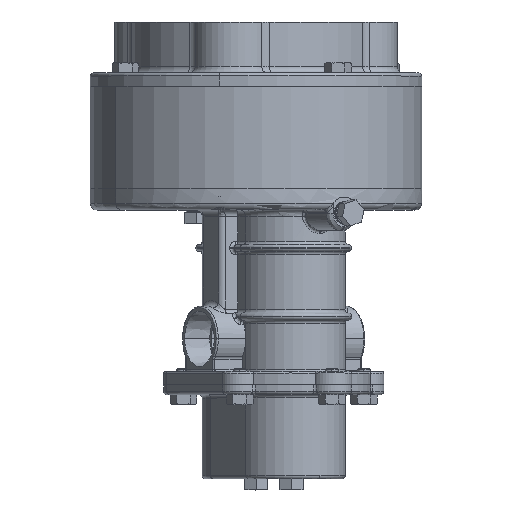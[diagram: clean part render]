
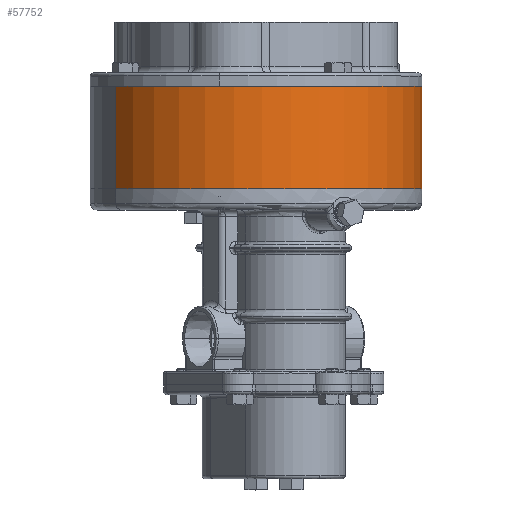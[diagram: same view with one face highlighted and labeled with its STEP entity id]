
A CAD part, top view. The second image highlights one B-rep face of the part: STEP entity #57752.
In plain terms, the highlighted cylindrical face has radius 79.756 mm (diameter 159.512 mm), a partial arc.
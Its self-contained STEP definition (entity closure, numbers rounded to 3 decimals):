
#240 = EDGE_CURVE ( 'NONE', #20567, #38460, #42700, .T. ) ;
#6654 = VERTEX_POINT ( 'NONE', #36865 ) ;
#6707 = CARTESIAN_POINT ( 'NONE',  ( -125.4, 70.687, -32.629 ) ) ;
#7072 = CARTESIAN_POINT ( 'NONE',  ( 9.527, 21.487, -117.71 ) ) ;
#8336 = VECTOR ( 'NONE', #58579, 1000. ) ;
#11216 = AXIS2_PLACEMENT_3D ( 'NONE', #13493, #38061, #58363 ) ;
#11624 = LINE ( 'NONE', #6707, #58195 ) ;
#12256 = DIRECTION ( 'NONE',  ( 0., -1., 0. ) ) ;
#13493 = CARTESIAN_POINT ( 'NONE',  ( -57.936, 70.687, -75.17 ) ) ;
#16353 = EDGE_CURVE ( 'NONE', #6654, #20567, #37637, .T. ) ;
#17004 = CARTESIAN_POINT ( 'NONE',  ( -125.4, 70.687, -32.629 ) ) ;
#18092 = FACE_OUTER_BOUND ( 'NONE', #21866, .T. ) ;
#20567 = VERTEX_POINT ( 'NONE', #7072 ) ;
#21866 = EDGE_LOOP ( 'NONE', ( #30302, #64059, #28583, #55279 ) ) ;
#22085 = CARTESIAN_POINT ( 'NONE',  ( -125.4, 21.487, -32.629 ) ) ;
#22633 = VERTEX_POINT ( 'NONE', #17004 ) ;
#23014 = CARTESIAN_POINT ( 'NONE',  ( -57.936, 70.687, -75.17 ) ) ;
#25565 = DIRECTION ( 'NONE',  ( -0.846, 0., 0.533 ) ) ;
#27477 = CARTESIAN_POINT ( 'NONE',  ( 9.527, 70.687, -117.71 ) ) ;
#28583 = ORIENTED_EDGE ( 'NONE', *, *, #44865, .T. ) ;
#29204 = CIRCLE ( 'NONE', #64780, 79.756 ) ;
#30302 = ORIENTED_EDGE ( 'NONE', *, *, #16353, .F. ) ;
#32827 = CYLINDRICAL_SURFACE ( 'NONE', #11216, 79.756 ) ;
#36865 = CARTESIAN_POINT ( 'NONE',  ( 9.527, 70.687, -117.71 ) ) ;
#37637 = LINE ( 'NONE', #27477, #8336 ) ;
#37768 = DIRECTION ( 'NONE',  ( -0.846, 0., 0.533 ) ) ;
#38061 = DIRECTION ( 'NONE',  ( 0., -1., 0. ) ) ;
#38460 = VERTEX_POINT ( 'NONE', #22085 ) ;
#42700 = CIRCLE ( 'NONE', #59401, 79.756 ) ;
#43010 = DIRECTION ( 'NONE',  ( 0., -1., 0. ) ) ;
#44865 = EDGE_CURVE ( 'NONE', #22633, #38460, #11624, .T. ) ;
#52841 = CARTESIAN_POINT ( 'NONE',  ( -57.936, 21.487, -75.17 ) ) ;
#55279 = ORIENTED_EDGE ( 'NONE', *, *, #240, .F. ) ;
#57752 = ADVANCED_FACE ( 'NONE', ( #18092 ), #32827, .T. ) ;
#58195 = VECTOR ( 'NONE', #12256, 1000. ) ;
#58363 = DIRECTION ( 'NONE',  ( -0.846, 0., 0.533 ) ) ;
#58579 = DIRECTION ( 'NONE',  ( 0., -1., 0. ) ) ;
#59401 = AXIS2_PLACEMENT_3D ( 'NONE', #52841, #63624, #37768 ) ;
#60436 = EDGE_CURVE ( 'NONE', #6654, #22633, #29204, .T. ) ;
#63624 = DIRECTION ( 'NONE',  ( 0., -1., 0. ) ) ;
#64059 = ORIENTED_EDGE ( 'NONE', *, *, #60436, .T. ) ;
#64780 = AXIS2_PLACEMENT_3D ( 'NONE', #23014, #43010, #25565 ) ;
